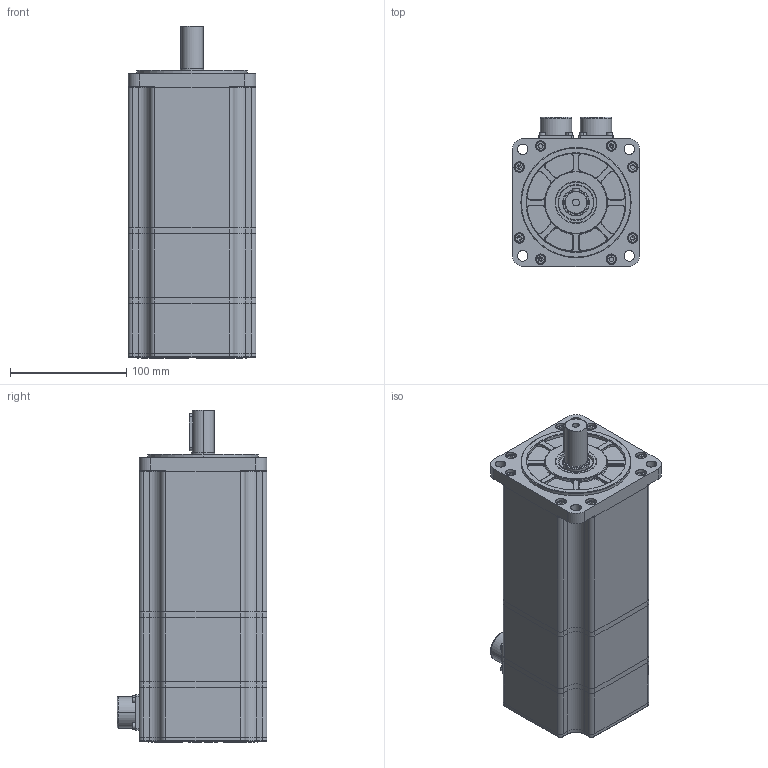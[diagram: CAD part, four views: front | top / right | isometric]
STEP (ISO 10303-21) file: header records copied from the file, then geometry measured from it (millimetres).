
FILE_DESCRIPTION (( 'STEP AP203' ), '1' );
FILE_NAME ('SMH110-1052028EBM.STEP', '2014-10-27T06:32:24', ( '微软用户' ), ( '微软中国' ), 'SwSTEP 2.0', 'SolidWorks 2008', '' );
FILE_SCHEMA (( 'CONFIG_CONTROL_DESIGN' ));
Length unit declared in the file: millimetre
Products named in the file (1): SMH110-1052028EBM
Bounding box: 110 x 129 x 286 mm (x, y, z)
Surface area: 156282.7 mm2 (no closed solid volume)
Topology: 0 solids, 35 shells, 802 faces, 2356 edges, 1505 vertices
Faces by surface type: plane 319, cylinder 290, bspline 144, cone 49
Entity records: 29709 total; most frequent: CARTESIAN_POINT 9148, DIRECTION 4403, ORIENTED_EDGE 3943, EDGE_CURVE 2258, AXIS2_PLACEMENT_3D 1624, VERTEX_POINT 1505, VECTOR 1155, LINE 1155
